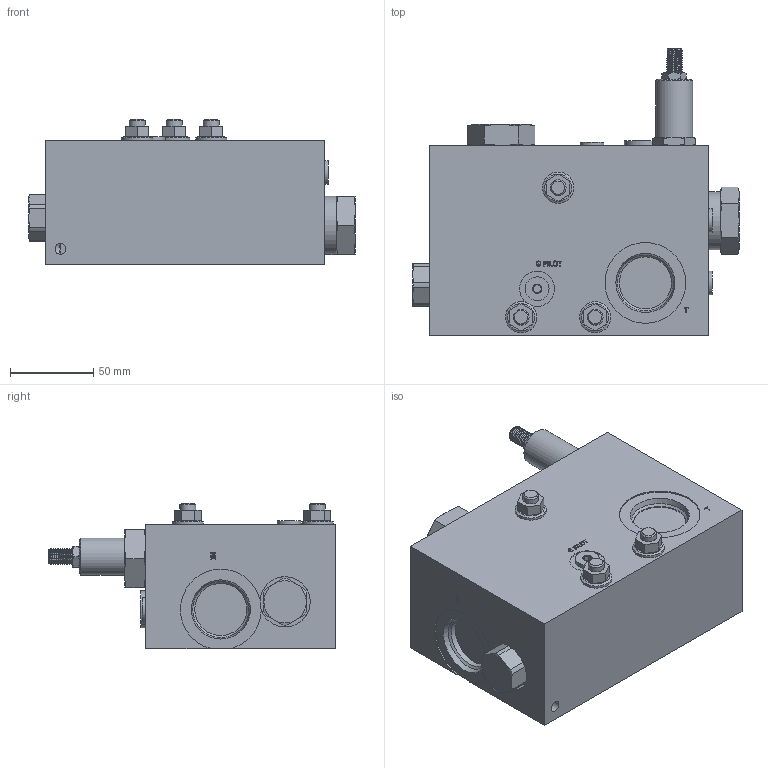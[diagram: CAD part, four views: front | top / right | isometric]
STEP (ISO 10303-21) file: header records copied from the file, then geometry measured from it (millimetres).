
FILE_DESCRIPTION(/* description */ ('20LS INLET FIX DISPL SOL','CAx-IF Rec.Pracs.---Representation and Presentation of Product Manufacturing Information (PMI)---3.8---2014-02-18'),/* implementation_level */ '2;1');
FILE_NAME(/* name */ 'C:\Vault\Workspace\RefDataValves\SolidModelShells\WebSolidModelShells\New2017\20ILFS65xxx.stp',/* time_stamp */ '2017-05-15T09:03:50-05:00',/* author */ ('PetersW'),/* organization */ ('Prince Manufacturing Corporation'),/* preprocessor_version */ 'ST-DEVELOPER v16.1',/* originating_system */ 'Autodesk Inventor 2016',/* authorisation */ '');
FILE_SCHEMA (('AP242_MANAGED_MODEL_BASED_3D_ENGINEERING_MIM_LF { 1 0 10303 442 1 1 4 }'));
Length unit declared in the file: inch
Products named in the file (1): 20ILFS65x_Shell
Bounding box: 196.04 x 172.8 x 87.33 mm (x, y, z)
Volume: 1453395.6 mm3; surface area: 105900.3 mm2
Topology: 1 solids, 17 shells, 629 faces, 1504 edges, 965 vertices
Faces by surface type: plane 389, cone 111, cylinder 60, bspline 57, torus 12
Full cylindrical faces by diameter (mm): 4.75 x1, 4.775 x1, 5.156 x1, 5.994 x7, 6.35 x3, 6.528 x1, 9.246 x2, 9.525 x3, 9.931 x3, 14.3 x5, 16.358 x3, 16.662 x1, 18.796 x3, 19.05 x1, 21.031 x5, 22.225 x3, 27.432 x1, 30.175 x3, 31.267 x2, 34.925 x1, 41.275 x1, 48.514 x1
Entity records: 17939 total; most frequent: CARTESIAN_POINT 4288, ORIENTED_EDGE 2692, DIRECTION 2420, EDGE_CURVE 1343, VERTEX_POINT 921, AXIS2_PLACEMENT_3D 837, EDGE_LOOP 812, LINE 746
